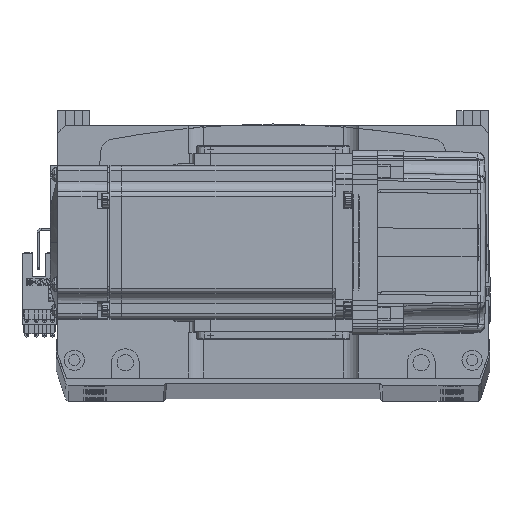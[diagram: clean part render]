
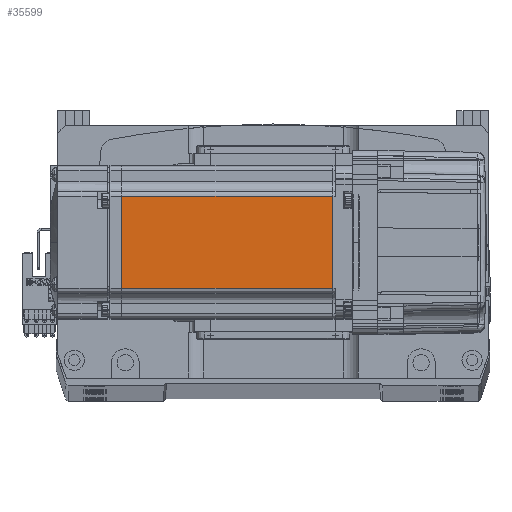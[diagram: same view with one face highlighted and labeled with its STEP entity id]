
A CAD part, top view. The second image highlights one B-rep face of the part: STEP entity #35599.
In plain terms, the highlighted planar face has unit normal (0, 0, 1).
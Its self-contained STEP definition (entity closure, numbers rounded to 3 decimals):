
#36 = CARTESIAN_POINT ( 'NONE',  ( -7.75, -18., 30. ) ) ;
#2336 = LINE ( 'NONE', #38868, #17417 ) ;
#2418 = ORIENTED_EDGE ( 'NONE', *, *, #35304, .F. ) ;
#4392 = VECTOR ( 'NONE', #53364, 1000. ) ;
#7055 = VECTOR ( 'NONE', #33063, 1000. ) ;
#7345 = ORIENTED_EDGE ( 'NONE', *, *, #49132, .T. ) ;
#8755 = LINE ( 'NONE', #64209, #4392 ) ;
#10389 = VERTEX_POINT ( 'NONE', #48950 ) ;
#11078 = LINE ( 'NONE', #19521, #69468 ) ;
#17417 = VECTOR ( 'NONE', #61516, 1000. ) ;
#18173 = PLANE ( 'NONE',  #43469 ) ;
#18846 = ORIENTED_EDGE ( 'NONE', *, *, #54405, .F. ) ;
#19521 = CARTESIAN_POINT ( 'NONE',  ( -7.75, 0., 30. ) ) ;
#20803 = VERTEX_POINT ( 'NONE', #50419 ) ;
#22840 = CARTESIAN_POINT ( 'NONE',  ( -6.5, -25., 30. ) ) ;
#29432 = ORIENTED_EDGE ( 'NONE', *, *, #31044, .T. ) ;
#31044 = EDGE_CURVE ( 'NONE', #40816, #20803, #2336, .T. ) ;
#33063 = DIRECTION ( 'NONE',  ( 0., -1., 0. ) ) ;
#33675 = EDGE_LOOP ( 'NONE', ( #18846, #29432, #7345, #2418 ) ) ;
#35304 = EDGE_CURVE ( 'NONE', #43805, #10389, #8755, .T. ) ;
#35599 = ADVANCED_FACE ( 'NONE', ( #52050 ), #18173, .T. ) ;
#38868 = CARTESIAN_POINT ( 'NONE',  ( -6.5, 18., 30. ) ) ;
#40816 = VERTEX_POINT ( 'NONE', #52922 ) ;
#42244 = DIRECTION ( 'NONE',  ( 0., -1., 0. ) ) ;
#43469 = AXIS2_PLACEMENT_3D ( 'NONE', #22840, #57654, #63296 ) ;
#43805 = VERTEX_POINT ( 'NONE', #36 ) ;
#46909 = LINE ( 'NONE', #66356, #7055 ) ;
#48950 = CARTESIAN_POINT ( 'NONE',  ( -90.45, -18., 30. ) ) ;
#49132 = EDGE_CURVE ( 'NONE', #20803, #10389, #46909, .T. ) ;
#50419 = CARTESIAN_POINT ( 'NONE',  ( -90.45, 18., 30. ) ) ;
#52050 = FACE_OUTER_BOUND ( 'NONE', #33675, .T. ) ;
#52922 = CARTESIAN_POINT ( 'NONE',  ( -7.75, 18., 30. ) ) ;
#53364 = DIRECTION ( 'NONE',  ( -1., 0., 0. ) ) ;
#54405 = EDGE_CURVE ( 'NONE', #40816, #43805, #11078, .T. ) ;
#57654 = DIRECTION ( 'NONE',  ( 0., 0., 1. ) ) ;
#61516 = DIRECTION ( 'NONE',  ( -1., 0., 0. ) ) ;
#63296 = DIRECTION ( 'NONE',  ( 1., 0., 0. ) ) ;
#64209 = CARTESIAN_POINT ( 'NONE',  ( -6.5, -18., 30. ) ) ;
#66356 = CARTESIAN_POINT ( 'NONE',  ( -90.45, 0., 30. ) ) ;
#69468 = VECTOR ( 'NONE', #42244, 1000. ) ;
